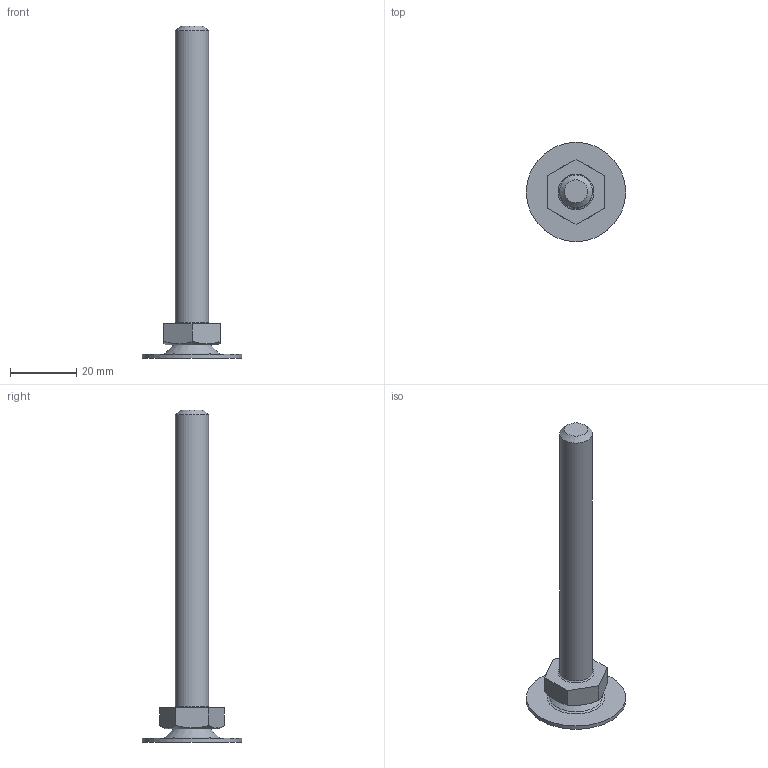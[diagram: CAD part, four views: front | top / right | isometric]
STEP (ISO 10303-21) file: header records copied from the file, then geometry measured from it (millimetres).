
FILE_DESCRIPTION(('STEP AP203'), '1');
FILE_NAME('A00050.1031016', '', ('UNSPECIFIED'), ('UNSPECIFIED'), 'C3D Converter', 'C3D Toolkit', '');
FILE_SCHEMA(('CONFIG_CONTROL_DESIGN'));
Length unit declared in the file: millimetre
Products named in the file (4): A00050.1031090; A00050.1030
Assembly tree (3 placements, depth 2):
  A00050.1031090
    A00050.1030
    (unnamed)
    (unnamed)
Bounding box: 30 x 30 x 100.38 mm (x, y, z)
Volume: 9524.8 mm3; surface area: 5697.6 mm2
Topology: 3 solids, 3 shells, 58 faces, 130 edges, 82 vertices
Faces by surface type: plane 28, torus 8, bspline 8, cone 7, cylinder 6, sphere 1
Full cylindrical faces by diameter (mm): 3.3 x1, 4 x1, 4.5 x1, 8 x1, 10 x1, 30 x1
Entity records: 2171 total; most frequent: CARTESIAN_POINT 784, DIRECTION 242, ORIENTED_EDGE 214, EDGE_CURVE 107, AXIS2_PLACEMENT_3D 95, EDGE_LOOP 86, VERTEX_POINT 81, ADVANCED_FACE 58
